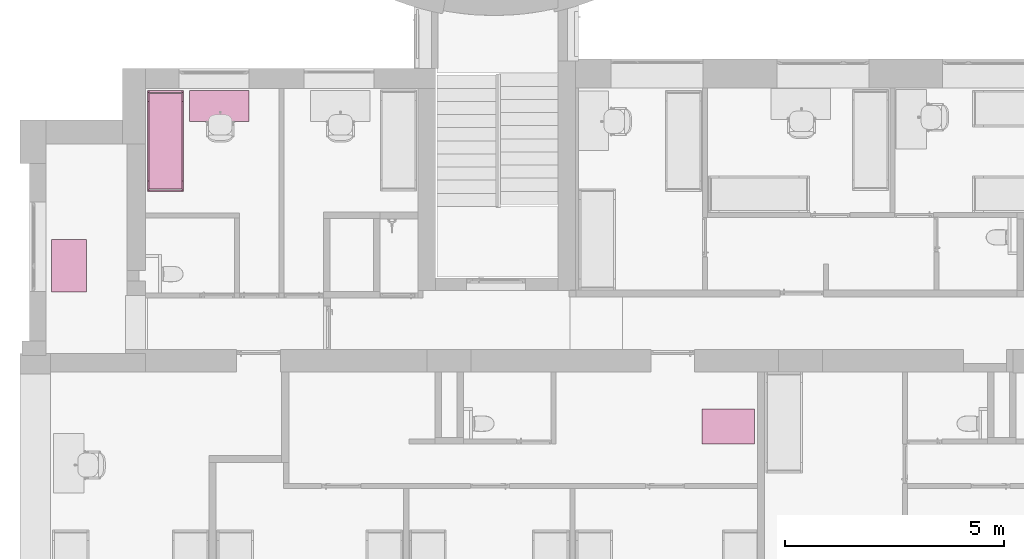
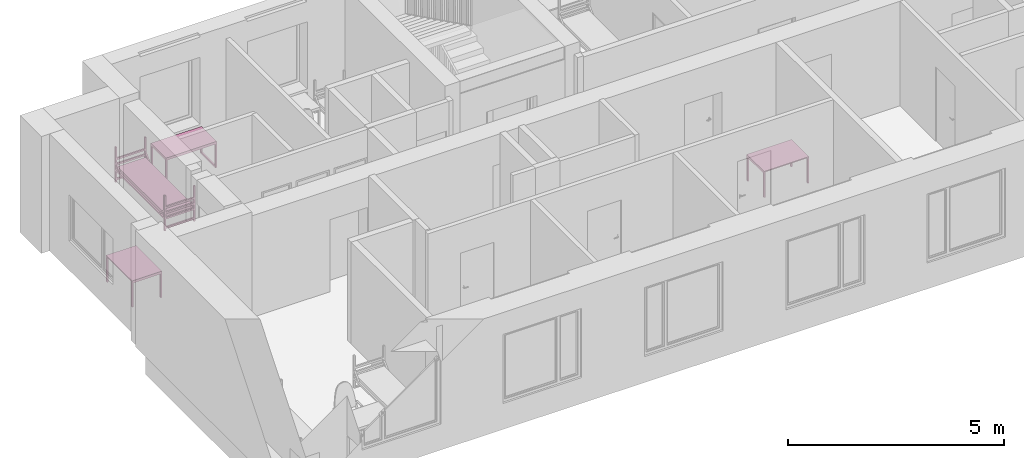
# One storey, part 31 of 46: 4 furnishings.
"""IFC2X3 building model written with IfcOpenShell, lengths in millimetres."""

from ifc_helpers import new_model, entity, si_unit, converted_unit, derived_unit, direction, frame, frame_2d, origin, origin_2d_with_axis, place, context, subcontext, project, spatial, polyline, circle_curve, parameter, trimmed, segment, composite_curve, rectangle, circle, outline, extrude, faceted_brep, source, transform, mapped, material, material_list, type_object, type_shapes, element, save


model = new_model("IFC2X3")

# Units and contexts
model_context = context("Model", 3, precision=0.01, world=origin(), true_north=direction((6.12303176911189e-17, 1.0)))
body_context = subcontext(model_context, "Body", "Model", "MODEL_VIEW")
ifc_project = project(units=[si_unit("LENGTHUNIT", "METRE", prefix="MILLI"), si_unit("AREAUNIT", "SQUARE_METRE"), si_unit("VOLUMEUNIT", "CUBIC_METRE"), converted_unit("PLANEANGLEUNIT", "DEGREE", entity("IfcRatioMeasure", 0.0174532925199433), si_unit("PLANEANGLEUNIT", "RADIAN"), dimensions=[0, 0, 0, 0, 0, 0, 0]), si_unit("MASSUNIT", "GRAM", prefix="KILO"), derived_unit("MASSDENSITYUNIT", [(si_unit("MASSUNIT", "GRAM", prefix="KILO"), 1), (si_unit("LENGTHUNIT", "METRE"), -3)]), si_unit("TIMEUNIT", "SECOND"), si_unit("FREQUENCYUNIT", "HERTZ"), si_unit("THERMODYNAMICTEMPERATUREUNIT", "DEGREE_CELSIUS"), derived_unit("THERMALTRANSMITTANCEUNIT", [(si_unit("MASSUNIT", "GRAM", prefix="KILO"), 1), (si_unit("THERMODYNAMICTEMPERATUREUNIT", "KELVIN"), -1), (si_unit("TIMEUNIT", "SECOND"), -3)]), derived_unit("VOLUMETRICFLOWRATEUNIT", [(si_unit("LENGTHUNIT", "METRE"), 3), (si_unit("TIMEUNIT", "SECOND"), -1)]), si_unit("ELECTRICCURRENTUNIT", "AMPERE"), si_unit("ELECTRICVOLTAGEUNIT", "VOLT"), si_unit("POWERUNIT", "WATT"), si_unit("FORCEUNIT", "NEWTON", prefix="KILO"), si_unit("ILLUMINANCEUNIT", "LUX"), si_unit("LUMINOUSFLUXUNIT", "LUMEN"), si_unit("LUMINOUSINTENSITYUNIT", "CANDELA"), derived_unit("USERDEFINED", [(si_unit("MASSUNIT", "GRAM", prefix="KILO"), -1), (si_unit("LENGTHUNIT", "METRE"), -2), (si_unit("TIMEUNIT", "SECOND"), 3), (si_unit("LUMINOUSFLUXUNIT", "LUMEN"), 1)]), derived_unit("LINEARVELOCITYUNIT", [(si_unit("LENGTHUNIT", "METRE"), 1), (si_unit("TIMEUNIT", "SECOND"), -1)]), si_unit("PRESSUREUNIT", "PASCAL"), derived_unit("USERDEFINED", [(si_unit("LENGTHUNIT", "METRE"), -2), (si_unit("MASSUNIT", "GRAM", prefix="KILO"), 1), (si_unit("TIMEUNIT", "SECOND"), -2)]), derived_unit("LINEARFORCEUNIT", [(si_unit("MASSUNIT", "GRAM", prefix="KILO"), 1), (si_unit("LENGTHUNIT", "METRE"), 1), (si_unit("TIMEUNIT", "SECOND"), -2), (si_unit("LENGTHUNIT", "METRE"), -1)]), derived_unit("PLANARFORCEUNIT", [(si_unit("MASSUNIT", "GRAM", prefix="KILO"), 1), (si_unit("LENGTHUNIT", "METRE"), 1), (si_unit("TIMEUNIT", "SECOND"), -2), (si_unit("LENGTHUNIT", "METRE"), -2)])], contexts=[model_context])

# Site, building, storey, space
site_placement = place(None, origin())
site = spatial("IfcSite", under=ifc_project, at=site_placement, Name="Default", CompositionType="ELEMENT")
building_placement = place(site_placement, origin())
building = spatial("IfcBuilding", under=site, at=building_placement, Name="SMA ARH", CompositionType="ELEMENT")
storey_placement = place(building_placement, origin())
storey = spatial("IfcBuildingStorey", under=building, at=storey_placement, Name="1 Korrus", CompositionType="ELEMENT", Elevation=0.0)
space_1_placement = place(storey_placement, origin())
space_1 = spatial("IfcSpace", under=storey, at=space_1_placement, Name="1-20/1", CompositionType="ELEMENT", InteriorOrExteriorSpace="INTERNAL")

# Furnishings
ifc_material_1 = material(Name="Madrats")
furniture_type_1 = type_object("IfcFurnitureType", Name="Kasarmu voodi ühekordne 2308x830:Kasarmu voodi ühekordne 2308x830", material=ifc_material_1)
shared_shape_1 = source(origin(), body_context, "Body", "SweptSolid", [
    extrude(rectangle(XDim=39.9999999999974, YDim=750.000000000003, at=frame_2d((-1.35003119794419e-13, -2.8421709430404e-14), x_axis=(1.0, 0.0))), frame((1.68638457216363, -1226.7969571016, 55.0), z_axis=(0.0, 0.0, 1.0), x_axis=(0.0, -1.0, 0.0)), (0.0, 0.0, 1.0), 49.9999999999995),
    extrude(rectangle(XDim=39.9999999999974, YDim=750.000000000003, at=frame_2d((-1.35003119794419e-13, -2.8421709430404e-14), x_axis=(1.0, 0.0))), frame((1.68638457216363, -1226.7969571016, 325.0), z_axis=(0.0, 0.0, 1.0), x_axis=(0.0, -1.0, 0.0)), (0.0, 0.0, 1.0), 49.9999999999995),
    extrude(rectangle(XDim=39.9999999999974, YDim=750.000000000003, at=frame_2d((-1.35003119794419e-13, -2.8421709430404e-14), x_axis=(1.0, 0.0))), frame((1.68638457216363, -1226.7969571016, 475.0), z_axis=(0.0, 0.0, 1.0), x_axis=(0.0, -1.0, 0.0)), (0.0, 0.0, 1.0), 49.9999999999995),
    extrude(rectangle(XDim=39.9999999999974, YDim=750.000000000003, at=frame_2d((-1.35003119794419e-13, -2.8421709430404e-14), x_axis=(1.0, 0.0))), frame((1.68638457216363, -1226.7969571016, 625.0), z_axis=(0.0, 0.0, 1.0), x_axis=(0.0, -1.0, 0.0)), (0.0, 0.0, 1.0), 50.0000000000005),
    extrude(rectangle(XDim=39.9999999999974, YDim=750.000000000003, at=frame_2d((1.35003119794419e-13, -2.8421709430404e-14), x_axis=(1.0, 0.0))), frame((1.68638457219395, 1041.2030428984, 55.0), z_axis=(0.0, 0.0, 1.0), x_axis=(0.0, -1.0, 0.0)), (0.0, 0.0, 1.0), 50.0000000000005),
    extrude(rectangle(XDim=39.9999999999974, YDim=750.000000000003, at=frame_2d((1.35003119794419e-13, -2.8421709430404e-14), x_axis=(1.0, 0.0))), frame((1.68638457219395, 1041.2030428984, 325.0), z_axis=(0.0, 0.0, 1.0), x_axis=(0.0, -1.0, 0.0)), (0.0, 0.0, 1.0), 50.0000000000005),
    extrude(rectangle(XDim=39.9999999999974, YDim=750.000000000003, at=frame_2d((1.35003119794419e-13, -2.8421709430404e-14), x_axis=(1.0, 0.0))), frame((1.68638457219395, 1041.2030428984, 475.0), z_axis=(0.0, 0.0, 1.0), x_axis=(0.0, -1.0, 0.0)), (0.0, 0.0, 1.0), 50.0000000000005),
    extrude(rectangle(XDim=39.9999999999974, YDim=750.000000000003, at=frame_2d((1.35003119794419e-13, -2.8421709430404e-14), x_axis=(1.0, 0.0))), frame((1.68638457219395, 1041.2030428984, 625.0), z_axis=(0.0, 0.0, 1.0), x_axis=(0.0, -1.0, 0.0)), (0.0, 0.0, 1.0), 49.9999999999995),
    extrude(outline(composite_curve([segment(trimmed(circle_curve(frame_2d((1085.0, -40.0), x_axis=(1.0, 0.0)), 10.0), [parameter(270.0)], [parameter(0.0)], True, "PARAMETER"), True, "CONTINUOUS"), segment(polyline([(1095.0, -40.0), (1095.0, 40.0)]), True, "CONTINUOUS"), segment(trimmed(circle_curve(frame_2d((1085.0, 40.0), x_axis=(1.0, 0.0)), 10.0), [parameter(0.0)], [parameter(90.0000000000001)], True, "PARAMETER"), True, "CONTINUOUS"), segment(polyline([(1085.0, 50.0), (-1085.0, 50.0)]), True, "CONTINUOUS"), segment(trimmed(circle_curve(frame_2d((-1085.0, 40.0), x_axis=(1.0, 0.0)), 10.0), [parameter(90.0000000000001)], [parameter(180.0)], True, "PARAMETER"), True, "CONTINUOUS"), segment(polyline([(-1095.0, 40.0), (-1095.0, -40.0)]), True, "CONTINUOUS"), segment(trimmed(circle_curve(frame_2d((-1085.0, -40.0), x_axis=(1.0, 0.0)), 10.0), [parameter(180.0)], [parameter(270.0)], True, "PARAMETER"), True, "CONTINUOUS"), segment(polyline([(-1085.0, -50.0), (1085.0, -50.0)]), True, "CONTINUOUS")], self_intersect=False)), frame((-373.313615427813, -92.7969571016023, 405.0), z_axis=(1.0, 0.0, 0.0), x_axis=(0.0, -1.0, 0.0)), (0.0, 0.0, 1.0), 750.000000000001),
    extrude(outline(polyline([(-1114.0, -100.0), (1114.0, -100.0), (1114.0, -50.0), (961.59199141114, -50.0), (1114.0, 100.0), (1114.0, 150.0), (910.789321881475, -50.0), (-910.789321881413, -50.0), (-1114.0, 150.0), (-1114.0, 100.0), (-961.591991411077, -50.0), (-1114.0, -50.0), (-1114.0, -100.0)])), frame((-413.313615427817, -92.7969571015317, 430.0), z_axis=(1.0, 0.0, 0.0), x_axis=(0.0, 1.0, 0.0)), (0.0, 0.0, 1.0), 39.9999999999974),
    extrude(outline(polyline([(-1114.0, -100.0), (1114.0, -100.0), (1114.0, -50.0), (961.591991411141, -50.0), (1114.0, 100.0), (1114.0, 150.0), (910.789321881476, -50.0), (-910.789321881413, -50.0), (-1114.0, 150.0), (-1114.0, 100.0), (-961.591991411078, -50.0), (-1114.0, -50.0), (-1114.0, -100.0)])), frame((376.686384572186, -92.796957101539, 430.0), z_axis=(1.0, 0.0, 0.0), x_axis=(0.0, 1.0, 0.0)), (0.0, 0.0, 1.0), 39.9999999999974),
    extrude(rectangle(XDim=39.9999999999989, YDim=39.9999999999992, at=frame_2d((-6.75015598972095e-14, 0.0), x_axis=(1.0, 0.0))), frame((396.686384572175, -1226.79695710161, 0.0), z_axis=(0.0, 0.0, 1.0), x_axis=(0.0, 1.0, 0.0)), (0.0, 0.0, 1.0), 995.0),
    extrude(rectangle(XDim=39.9999999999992, YDim=39.9999999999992, at=frame_2d((-1.35003119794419e-13, 0.0), x_axis=(1.0, 0.0))), frame((396.686384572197, 1041.20304289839, 0.0), z_axis=(0.0, 0.0, 1.0), x_axis=(0.0, 1.0, 0.0)), (0.0, 0.0, 1.0), 995.0),
    extrude(rectangle(XDim=40.0000000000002, YDim=39.9999999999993, at=frame_2d((-1.35003119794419e-13, 0.0), x_axis=(1.0, 0.0))), frame((-393.313615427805, 1041.2030428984, 0.0), z_axis=(0.0, 0.0, 1.0), x_axis=(0.0, 1.0, 0.0)), (0.0, 0.0, 1.0), 995.0),
    extrude(rectangle(XDim=39.9999999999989, YDim=39.9999999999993, at=frame_2d((-6.75015598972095e-14, 0.0), x_axis=(1.0, 0.0))), frame((-393.313615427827, -1226.7969571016, 0.0), z_axis=(0.0, 0.0, 1.0), x_axis=(0.0, 1.0, 0.0)), (0.0, 0.0, 1.0), 995.0),
])
type_shapes(furniture_type_1, [shared_shape_1])
furnishing_1_placement = place(space_1_placement, frame((2623.31361542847, 11380.0, 0.0)))
element("IfcFurnishingElement", 1, at=furnishing_1_placement, inside=space_1, type_object=furniture_type_1, material=ifc_material_1, Name="Kasarmu voodi ühekordne 2308x830:Kasarmu voodi ühekordne 2308x830", ObjectType="Kasarmu voodi ühekordne 2308x830:Kasarmu voodi ühekordne 2308x830", context=body_context, shape_type="MappedRepresentation", body=[
    mapped(shared_shape_1, transform((0.0, 0.0, 0.0), scale=1.0)),
])
ifc_material_2 = material(Name="<Unnamed>")
ifc_material_list_1 = material_list([ifc_material_2, ifc_material_2])
furniture_type_2 = type_object("IfcFurnitureType", Name="kirjutuslaud 1360x700mm:kirjutuslaud 1360x700mm", material=ifc_material_list_1)
shared_shape_2 = source(origin(), body_context, "Body", "Brep", [
    faceted_brep([(680.0, -350.0, 720.0), (680.0, 350.0, 720.0), (680.0, 350.0, 750.0), (680.0, -350.0, 750.0), (-680.0, -350.0, 720.0), (-680.0, -350.0, 750.0), (-680.0, 350.0, 750.0), (-680.0, 350.0, 720.0)], [[[0, 1, 2, 3]], [[4, 5, 6, 7]], [[1, 0, 4, 7]], [[2, 1, 7, 6]], [[3, 2, 6, 5]], [[0, 3, 5, 4]]]),
    faceted_brep([(-640.0, -310.0, 680.0), (-640.0, 310.0, 680.0), (-640.0, 310.0, 720.0), (-640.0, -310.0, 720.0), (-680.0, -350.0, 720.0), (-680.0, 350.0, 720.0), (-680.0, 350.0, 10.0), (-680.0, -350.0, 10.0), (-680.0, 310.0, 680.0), (-680.0, -310.0, 680.0), (-680.0, -310.0, 50.0), (-680.0, 310.0, 50.0), (-640.0, -350.0, 10.0), (-640.0, -350.0, 680.0), (640.0, -350.0, 680.0), (640.0, -350.0, 10.0), (680.0, -350.0, 10.0), (680.0, -350.0, 720.0), (-640.0, 350.0, 10.0), (680.0, 350.0, 720.0), (680.0, 350.0, 10.0), (640.0, 350.0, 10.0), (640.0, 350.0, 680.0), (-640.0, 350.0, 680.0), (640.0, 310.0, 720.0), (640.0, -310.0, 720.0), (-640.0, 310.0, 50.0), (-640.0, -310.0, 50.0), (640.0, -310.0, 680.0), (640.0, 310.0, 680.0), (680.0, 310.0, 680.0), (680.0, 310.0, 50.0), (680.0, -310.0, 50.0), (680.0, -310.0, 680.0), (640.0, -310.0, 50.0), (640.0, 310.0, 50.0)], [[[0, 1, 2, 3]], [[4, 5, 6, 7], [8, 9, 10, 11]], [[4, 7, 12, 13, 14, 15, 16, 17]], [[18, 12, 7, 6]], [[6, 5, 19, 20, 21, 22, 23, 18]], [[19, 5, 4, 17], [2, 24, 25, 3]], [[26, 1, 8, 11]], [[27, 26, 11, 10]], [[0, 27, 10, 9]], [[1, 0, 9, 8]], [[14, 13, 0, 28]], [[24, 2, 1, 29]], [[3, 25, 28, 0]], [[17, 16, 20, 19], [30, 31, 32, 33]], [[21, 15, 14, 28, 34, 35, 29, 22]], [[20, 16, 15, 21]], [[31, 30, 29, 35]], [[32, 31, 35, 34]], [[33, 32, 34, 28]], [[30, 33, 28, 29]], [[29, 28, 25, 24]], [[29, 1, 23, 22]], [[12, 18, 23, 1, 26, 27, 0, 13]]]),
    faceted_brep([(-663.729456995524, -270.466136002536, 0.0), (-659.847171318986, -269.955023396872, 0.0), (-655.964885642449, -270.466136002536, 0.0), (-652.347171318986, -271.964642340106, 0.0), (-649.240569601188, -274.348421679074, 0.0), (-646.85679026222, -277.455023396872, 0.0), (-645.35828392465, -281.072737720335, 0.0), (-644.847171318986, -284.955023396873, 0.0), (-645.35828392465, -288.83730907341, 0.0), (-646.85679026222, -292.455023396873, 0.0), (-649.240569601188, -295.561625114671, 0.0), (-652.347171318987, -297.945404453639, 0.0), (-655.964885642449, -299.443910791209, 0.0), (-659.847171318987, -299.955023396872, 0.0), (-663.729456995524, -299.443910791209, 0.0), (-667.347171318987, -297.945404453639, 0.0), (-670.453773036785, -295.561625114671, 0.0), (-672.837552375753, -292.455023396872, 0.0), (-674.336058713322, -288.83730907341, 0.0), (-674.847171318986, -284.955023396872, 0.0), (-674.336058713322, -281.072737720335, 0.0), (-672.837552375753, -277.455023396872, 0.0), (-670.453773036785, -274.348421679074, 0.0), (-667.347171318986, -271.964642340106, 0.0), (-655.964885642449, -299.443910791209, 10.0), (-652.347171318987, -297.945404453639, 10.0), (-649.240569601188, -295.561625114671, 10.0), (-646.85679026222, -292.455023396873, 10.0), (-645.35828392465, -288.83730907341, 10.0), (-644.847171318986, -284.955023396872, 10.0), (-645.35828392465, -281.072737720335, 10.0), (-646.85679026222, -277.455023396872, 10.0), (-649.240569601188, -274.348421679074, 10.0), (-652.347171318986, -271.964642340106, 10.0), (-655.964885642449, -270.466136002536, 10.0), (-659.847171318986, -269.955023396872, 10.0), (-663.729456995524, -270.466136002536, 10.0), (-667.347171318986, -271.964642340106, 10.0), (-670.453773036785, -274.348421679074, 10.0), (-672.837552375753, -277.455023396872, 10.0), (-674.336058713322, -281.072737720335, 10.0), (-674.847171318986, -284.955023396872, 10.0), (-674.336058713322, -288.83730907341, 10.0), (-672.837552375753, -292.455023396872, 10.0), (-670.453773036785, -295.561625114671, 10.0), (-667.347171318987, -297.945404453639, 10.0), (-663.729456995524, -299.443910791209, 10.0), (-659.847171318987, -299.955023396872, 10.0)], [[[0, 1, 2, 3, 4, 5, 6, 7, 8, 9, 10, 11, 12, 13, 14, 15, 16, 17, 18, 19, 20, 21, 22, 23]], [[24, 25, 26, 27, 28, 29, 30, 31, 32, 33, 34, 35, 36, 37, 38, 39, 40, 41, 42, 43, 44, 45, 46, 47]], [[18, 42, 41, 19]], [[17, 43, 42, 18]], [[45, 44, 16, 15]], [[17, 16, 44, 43]], [[46, 45, 15, 14]], [[47, 46, 14, 13]], [[12, 24, 47, 13]], [[11, 25, 24, 12]], [[27, 26, 10, 9]], [[11, 10, 26, 25]], [[28, 27, 9, 8]], [[29, 28, 8, 7]], [[6, 30, 29, 7]], [[5, 31, 30, 6]], [[33, 32, 4, 3]], [[5, 4, 32, 31]], [[34, 33, 3, 2]], [[35, 34, 2, 1]], [[0, 36, 35, 1]], [[23, 37, 36, 0]], [[39, 38, 22, 21]], [[23, 22, 38, 37]], [[40, 39, 21, 20]], [[41, 40, 20, 19]]]),
    faceted_brep([(-655.964885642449, 270.466136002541, 10.0), (-652.347171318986, 271.964642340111, 10.0), (-649.240569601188, 274.348421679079, 10.0), (-646.85679026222, 277.455023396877, 10.0), (-645.35828392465, 281.07273772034, 10.0), (-644.847171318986, 284.955023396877, 10.0), (-645.35828392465, 288.837309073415, 10.0), (-646.85679026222, 292.455023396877, 10.0), (-649.240569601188, 295.561625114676, 10.0), (-652.347171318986, 297.945404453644, 10.0), (-655.964885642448, 299.443910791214, 10.0), (-659.847171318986, 299.955023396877, 10.0), (-663.729456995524, 299.443910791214, 10.0), (-667.347171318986, 297.945404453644, 10.0), (-670.453773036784, 295.561625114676, 10.0), (-672.837552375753, 292.455023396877, 10.0), (-674.336058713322, 288.837309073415, 10.0), (-674.847171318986, 284.955023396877, 10.0), (-674.336058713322, 281.07273772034, 10.0), (-672.837552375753, 277.455023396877, 10.0), (-670.453773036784, 274.348421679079, 10.0), (-667.347171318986, 271.964642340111, 10.0), (-663.729456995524, 270.466136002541, 10.0), (-659.847171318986, 269.955023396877, 10.0), (-655.964885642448, 299.443910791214, 0.0), (-652.347171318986, 297.945404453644, 0.0), (-649.240569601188, 295.561625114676, 0.0), (-646.85679026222, 292.455023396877, 0.0), (-645.35828392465, 288.837309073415, 0.0), (-644.847171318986, 284.955023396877, 0.0), (-645.35828392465, 281.07273772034, 0.0), (-646.85679026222, 277.455023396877, 0.0), (-649.240569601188, 274.348421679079, 0.0), (-652.347171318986, 271.964642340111, 0.0), (-655.964885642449, 270.466136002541, 0.0), (-659.847171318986, 269.955023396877, 0.0), (-663.729456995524, 270.466136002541, 0.0), (-667.347171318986, 271.964642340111, 0.0), (-670.453773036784, 274.348421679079, 0.0), (-672.837552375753, 277.455023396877, 0.0), (-674.336058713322, 281.07273772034, 0.0), (-674.847171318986, 284.955023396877, 0.0), (-674.336058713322, 288.837309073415, 0.0), (-672.837552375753, 292.455023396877, 0.0), (-670.453773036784, 295.561625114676, 0.0), (-667.347171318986, 297.945404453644, 0.0), (-663.729456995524, 299.443910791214, 0.0), (-659.847171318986, 299.955023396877, 0.0)], [[[0, 1, 2, 3, 4, 5, 6, 7, 8, 9, 10, 11, 12, 13, 14, 15, 16, 17, 18, 19, 20, 21, 22, 23]], [[24, 25, 26, 27, 28, 29, 30, 31, 32, 33, 34, 35, 36, 37, 38, 39, 40, 41, 42, 43, 44, 45, 46, 47]], [[40, 18, 17, 41]], [[39, 19, 18, 40]], [[21, 20, 38, 37]], [[39, 38, 20, 19]], [[22, 21, 37, 36]], [[23, 22, 36, 35]], [[34, 0, 23, 35]], [[33, 1, 0, 34]], [[3, 2, 32, 31]], [[33, 32, 2, 1]], [[4, 3, 31, 30]], [[5, 4, 30, 29]], [[28, 6, 5, 29]], [[27, 7, 6, 28]], [[9, 8, 26, 25]], [[27, 26, 8, 7]], [[10, 9, 25, 24]], [[11, 10, 24, 47]], [[46, 12, 11, 47]], [[45, 13, 12, 46]], [[15, 14, 44, 43]], [[45, 44, 14, 13]], [[16, 15, 43, 42]], [[17, 16, 42, 41]]]),
    faceted_brep([(656.270543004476, -270.466136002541, 0.0), (660.152828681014, -269.955023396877, 0.0), (664.035114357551, -270.466136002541, 0.0), (667.652828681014, -271.96464234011, 0.0), (670.759430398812, -274.348421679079, 0.0), (673.14320973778, -277.455023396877, 0.0), (674.64171607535, -281.072737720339, 0.0), (675.152828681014, -284.955023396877, 0.0), (674.64171607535, -288.837309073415, 0.0), (673.14320973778, -292.455023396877, 0.0), (670.759430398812, -295.561625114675, 0.0), (667.652828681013, -297.945404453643, 0.0), (664.035114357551, -299.443910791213, 0.0), (660.152828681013, -299.955023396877, 0.0), (656.270543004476, -299.443910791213, 0.0), (652.652828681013, -297.945404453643, 0.0), (649.546226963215, -295.561625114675, 0.0), (647.162447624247, -292.455023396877, 0.0), (645.663941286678, -288.837309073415, 0.0), (645.152828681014, -284.955023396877, 0.0), (645.663941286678, -281.072737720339, 0.0), (647.162447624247, -277.455023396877, 0.0), (649.546226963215, -274.348421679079, 0.0), (652.652828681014, -271.96464234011, 0.0), (664.035114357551, -299.443910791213, 10.0), (667.652828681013, -297.945404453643, 10.0), (670.759430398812, -295.561625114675, 10.0), (673.14320973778, -292.455023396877, 10.0), (674.64171607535, -288.837309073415, 10.0), (675.152828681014, -284.955023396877, 10.0), (674.64171607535, -281.072737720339, 10.0), (673.14320973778, -277.455023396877, 10.0), (670.759430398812, -274.348421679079, 10.0), (667.652828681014, -271.96464234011, 10.0), (664.035114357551, -270.466136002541, 10.0), (660.152828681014, -269.955023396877, 10.0), (656.270543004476, -270.466136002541, 10.0), (652.652828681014, -271.96464234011, 10.0), (649.546226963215, -274.348421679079, 10.0), (647.162447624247, -277.455023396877, 10.0), (645.663941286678, -281.072737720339, 10.0), (645.152828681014, -284.955023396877, 10.0), (645.663941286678, -288.837309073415, 10.0), (647.162447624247, -292.455023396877, 10.0), (649.546226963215, -295.561625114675, 10.0), (652.652828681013, -297.945404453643, 10.0), (656.270543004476, -299.443910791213, 10.0), (660.152828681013, -299.955023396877, 10.0)], [[[0, 1, 2, 3, 4, 5, 6, 7, 8, 9, 10, 11, 12, 13, 14, 15, 16, 17, 18, 19, 20, 21, 22, 23]], [[24, 25, 26, 27, 28, 29, 30, 31, 32, 33, 34, 35, 36, 37, 38, 39, 40, 41, 42, 43, 44, 45, 46, 47]], [[18, 42, 41, 19]], [[17, 43, 42, 18]], [[45, 44, 16, 15]], [[17, 16, 44, 43]], [[46, 45, 15, 14]], [[47, 46, 14, 13]], [[12, 24, 47, 13]], [[11, 25, 24, 12]], [[27, 26, 10, 9]], [[11, 10, 26, 25]], [[28, 27, 9, 8]], [[29, 28, 8, 7]], [[6, 30, 29, 7]], [[5, 31, 30, 6]], [[33, 32, 4, 3]], [[5, 4, 32, 31]], [[34, 33, 3, 2]], [[35, 34, 2, 1]], [[0, 36, 35, 1]], [[23, 37, 36, 0]], [[39, 38, 22, 21]], [[23, 22, 38, 37]], [[40, 39, 21, 20]], [[41, 40, 20, 19]]]),
    faceted_brep([(664.035114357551, 270.466136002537, 10.0), (667.652828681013, 271.964642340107, 10.0), (670.759430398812, 274.348421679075, 10.0), (673.14320973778, 277.455023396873, 10.0), (674.64171607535, 281.072737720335, 10.0), (675.152828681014, 284.955023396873, 10.0), (674.64171607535, 288.837309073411, 10.0), (673.14320973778, 292.455023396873, 10.0), (670.759430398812, 295.561625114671, 10.0), (667.652828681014, 297.94540445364, 10.0), (664.035114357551, 299.443910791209, 10.0), (660.152828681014, 299.955023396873, 10.0), (656.270543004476, 299.443910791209, 10.0), (652.652828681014, 297.94540445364, 10.0), (649.546226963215, 295.561625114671, 10.0), (647.162447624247, 292.455023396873, 10.0), (645.663941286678, 288.837309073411, 10.0), (645.152828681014, 284.955023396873, 10.0), (645.663941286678, 281.072737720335, 10.0), (647.162447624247, 277.455023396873, 10.0), (649.546226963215, 274.348421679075, 10.0), (652.652828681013, 271.964642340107, 10.0), (656.270543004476, 270.466136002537, 10.0), (660.152828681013, 269.955023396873, 10.0), (664.035114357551, 299.443910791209, 0.0), (667.652828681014, 297.94540445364, 0.0), (670.759430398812, 295.561625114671, 0.0), (673.14320973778, 292.455023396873, 0.0), (674.64171607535, 288.837309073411, 0.0), (675.152828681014, 284.955023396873, 0.0), (674.64171607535, 281.072737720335, 0.0), (673.14320973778, 277.455023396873, 0.0), (670.759430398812, 274.348421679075, 0.0), (667.652828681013, 271.964642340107, 0.0), (664.035114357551, 270.466136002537, 0.0), (660.152828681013, 269.955023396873, 0.0), (656.270543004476, 270.466136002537, 0.0), (652.652828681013, 271.964642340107, 0.0), (649.546226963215, 274.348421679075, 0.0), (647.162447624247, 277.455023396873, 0.0), (645.663941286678, 281.072737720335, 0.0), (645.152828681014, 284.955023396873, 0.0), (645.663941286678, 288.837309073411, 0.0), (647.162447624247, 292.455023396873, 0.0), (649.546226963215, 295.561625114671, 0.0), (652.652828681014, 297.94540445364, 0.0), (656.270543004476, 299.443910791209, 0.0), (660.152828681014, 299.955023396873, 0.0)], [[[0, 1, 2, 3, 4, 5, 6, 7, 8, 9, 10, 11, 12, 13, 14, 15, 16, 17, 18, 19, 20, 21, 22, 23]], [[24, 25, 26, 27, 28, 29, 30, 31, 32, 33, 34, 35, 36, 37, 38, 39, 40, 41, 42, 43, 44, 45, 46, 47]], [[40, 18, 17, 41]], [[39, 19, 18, 40]], [[21, 20, 38, 37]], [[39, 38, 20, 19]], [[22, 21, 37, 36]], [[23, 22, 36, 35]], [[34, 0, 23, 35]], [[33, 1, 0, 34]], [[3, 2, 32, 31]], [[33, 32, 2, 1]], [[4, 3, 31, 30]], [[5, 4, 30, 29]], [[28, 6, 5, 29]], [[27, 7, 6, 28]], [[9, 8, 26, 25]], [[27, 26, 8, 7]], [[10, 9, 25, 24]], [[11, 10, 24, 47]], [[46, 12, 11, 47]], [[45, 13, 12, 46]], [[15, 14, 44, 43]], [[45, 44, 14, 13]], [[16, 15, 43, 42]], [[17, 16, 42, 41]]]),
])
type_shapes(furniture_type_2, [shared_shape_2])
furnishing_2_placement = place(space_1_placement, frame((3859.0, 12091.2030428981, 0.0)))
element("IfcFurnishingElement", 2, at=furnishing_2_placement, inside=space_1, type_object=furniture_type_2, Name="kirjutuslaud 1360x700mm:kirjutuslaud 1360x700mm", ObjectType="kirjutuslaud 1360x700mm:kirjutuslaud 1360x700mm", context=body_context, shape_type="MappedRepresentation", body=[
    mapped(shared_shape_2, transform((0.0, 0.0, 0.0), scale=1.0)),
])

# Space
space_2_placement = place(storey_placement, origin())
space_2 = spatial("IfcSpace", under=storey, at=space_2_placement, Name="1-16", CompositionType="ELEMENT", InteriorOrExteriorSpace="INTERNAL")

# Furnishing
ifc_material_3 = material(Name="Metal - Stud Layer")
ifc_material_list_2 = material_list([ifc_material_3, ifc_material_2])
furniture_type_3 = type_object("IfcFurnitureType", Name="laud_1200x800:laud_1200x800", material=ifc_material_list_2)
shared_shape_3 = source(origin(), body_context, "Body", "SweptSolid", [
    extrude(rectangle(XDim=800.0, YDim=1200.0, at=origin_2d_with_axis()), frame((-150.0, 550.0, 720.0), z_axis=(0.0, 0.0, 1.0), x_axis=(-1.0, 0.0, 0.0)), (0.0, 0.0, 1.0), 29.9999999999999),
    extrude(outline(polyline([(-400.0, -365.0), (400.0, -365.0), (400.0, 345.0), (360.0, 345.0), (360.0, -325.0), (-360.0, -325.0), (-360.0, 345.0), (-400.0, 345.0), (-400.0, -365.0)])), frame((-150.0, -50.0, 355.0), z_axis=(0.0, 1.0, 0.0), x_axis=(1.0, 0.0, 0.0)), (0.0, 0.0, 1.0), 40.0000000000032),
    extrude(outline(polyline([(-400.0, -365.0), (400.0, -365.0), (400.0, 345.0), (360.0, 345.0), (360.0, -325.0), (-360.0, -325.0), (-360.0, 345.0), (-400.0, 345.0), (-400.0, -365.0)])), frame((-150.0, 1110.0, 355.0), z_axis=(0.0, 1.0, 0.0), x_axis=(1.0, 0.0, 0.0)), (0.0, 0.0, 1.0), 40.0000000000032),
    extrude(circle(Radius=15.0, at=frame_2d((0.0, 5.07593966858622e-14), x_axis=(1.0, 0.0))), frame((-529.847171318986, -29.9550233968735, 0.0)), (0.0, 0.0, 1.0), 10.0),
    extrude(circle(Radius=15.0, at=origin_2d_with_axis()), frame((-529.847171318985, 1129.95502339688, 0.0)), (0.0, 0.0, 1.0), 10.0),
    extrude(circle(Radius=15.0, at=origin_2d_with_axis()), frame((230.152828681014, -29.9550233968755, 0.0)), (0.0, 0.0, 1.0), 10.0),
    extrude(circle(Radius=15.0, at=origin_2d_with_axis()), frame((230.152828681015, 1129.95502339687, 0.0)), (0.0, 0.0, 1.0), 10.0),
])
type_shapes(furniture_type_3, [shared_shape_3])
furnishing_3_placement = place(space_2_placement, frame((16041.2909917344, 4910.0, 0.0), z_axis=(0.0, 0.0, 1.0), x_axis=(0.0, 1.0, 0.0)))
element("IfcFurnishingElement", 3, at=furnishing_3_placement, inside=space_2, type_object=furniture_type_3, material=ifc_material_3, Name="laud_1200x800:laud_1200x800", ObjectType="laud_1200x800:laud_1200x800", context=body_context, shape_type="MappedRepresentation", body=[
    mapped(shared_shape_3, transform((0.0, 0.0, 0.0), scale=1.0)),
])

# Space
space_3_placement = place(storey_placement, origin())
space_3 = spatial("IfcSpace", under=storey, at=space_3_placement, Name="1-18", CompositionType="ELEMENT", InteriorOrExteriorSpace="INTERNAL")

# Furnishing
furnishing_4_placement = place(space_3_placement, frame((573.056914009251, 7889.0, 3.05000000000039)))
element("IfcFurnishingElement", 4, at=furnishing_4_placement, inside=space_3, type_object=furniture_type_3, material=ifc_material_3, Name="laud_1200x800:laud_1200x800", ObjectType="laud_1200x800:laud_1200x800", context=body_context, shape_type="MappedRepresentation", body=[
    mapped(shared_shape_3, transform((0.0, 0.0, 0.0), scale=1.0)),
])

save(model, "model.ifc")
